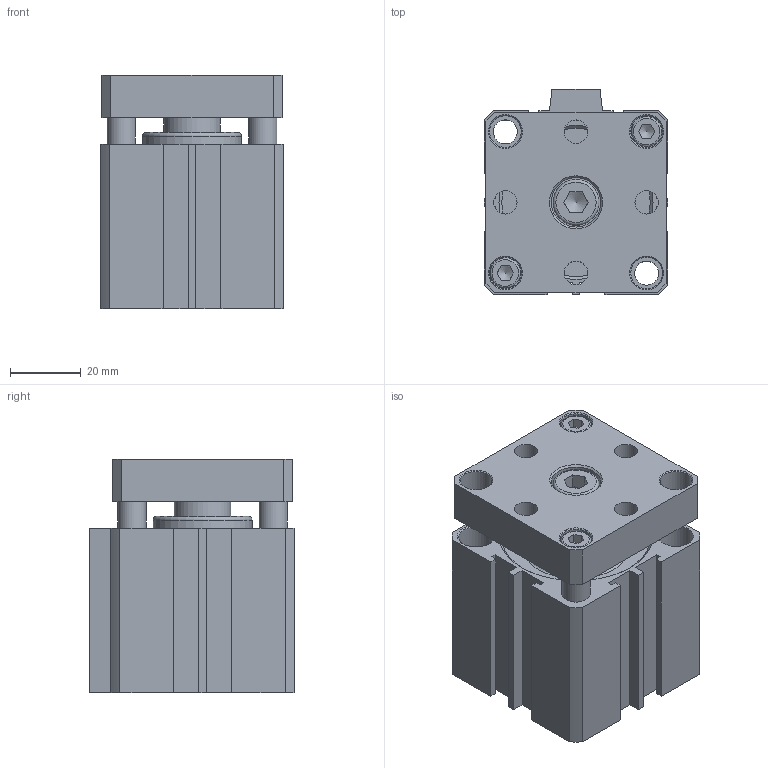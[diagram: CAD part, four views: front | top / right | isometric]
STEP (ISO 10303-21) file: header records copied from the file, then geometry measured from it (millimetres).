
FILE_DESCRIPTION((''),'2;1');
FILE_NAME('I:\3D電子目錄\氣缸\JTD\JTD\JTD40\JTD40x20.stp','2007-08-14T18:47:50',('Administrator'),(''),'Autodesk Inventor 11','Autodesk Inventor 11','');
FILE_SCHEMA(('AUTOMOTIVE_DESIGN { 1 0 10303 214 1 1 1 1 }'));
Length unit declared in the file: millimetre
Products named in the file (5): JTD40; R 形環 42; ISO 4762 M8 x 12; ISO 4762 M5 x 16
Assembly tree (5 placements, depth 2):
  JTD40
    JTD40
    R 形環 42
    ISO 4762 M8 x 12
    ISO 4762 M5 x 16  x2
Bounding box: 52 x 58 x 66.1 mm (x, y, z)
Volume: 134693.8 mm3; surface area: 39118.6 mm2
Topology: 5 solids, 5 shells, 195 faces, 448 edges, 290 vertices
Faces by surface type: plane 113, cylinder 43, cone 18, bspline 16, torus 5
Full cylindrical faces by diameter (mm): 1.9 x2, 2.2 x2, 5 x2, 6.8 x2, 8 x5, 8.5 x2, 9 x2, 9.5 x2, 10 x2, 13 x1, 16 x1, 28 x1, 29 x1, 42 x4, 44.5 x2
Entity records: 5157 total; most frequent: CARTESIAN_POINT 1103, DIRECTION 814, ORIENTED_EDGE 704, EDGE_CURVE 352, AXIS2_PLACEMENT_3D 299, EDGE_LOOP 294, VERTEX_POINT 266, VECTOR 216
